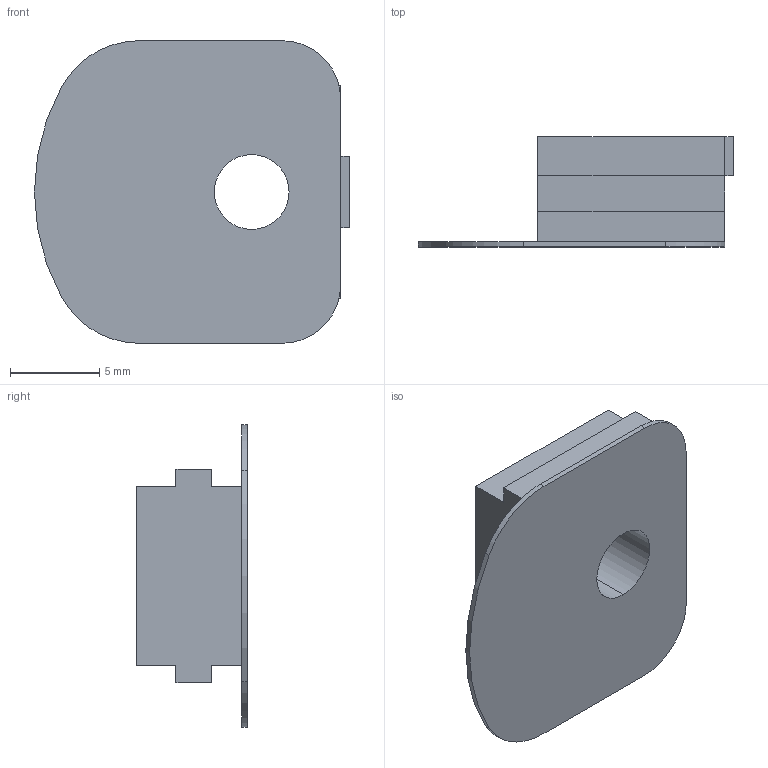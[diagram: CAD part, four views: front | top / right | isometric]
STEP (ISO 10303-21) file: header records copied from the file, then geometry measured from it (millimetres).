
FILE_DESCRIPTION (( 'STEP AP203' ), '1' );
FILE_NAME ('MS-FD-F7-1.STEP', '2005-10-27T01:16:14', ( '' ), ( '' ), 'SwSTEP 2.0', 'SolidWorks 2004073', '' );
FILE_SCHEMA (( 'CONFIG_CONTROL_DESIGN' ));
Length unit declared in the file: millimetre
Products named in the file (1): MS-FD-F7-1
Bounding box: 17.7 x 6.2 x 17 mm (x, y, z)
Volume: 660.2 mm3; surface area: 904.9 mm2
Topology: 1 solids, 1 shells, 28 faces, 78 edges, 52 vertices
Faces by surface type: plane 21, cylinder 7
Entity records: 977 total; most frequent: CARTESIAN_POINT 159, ORIENTED_EDGE 156, DIRECTION 150, EDGE_CURVE 78, VECTOR 64, LINE 64, VERTEX_POINT 52, AXIS2_PLACEMENT_3D 43
